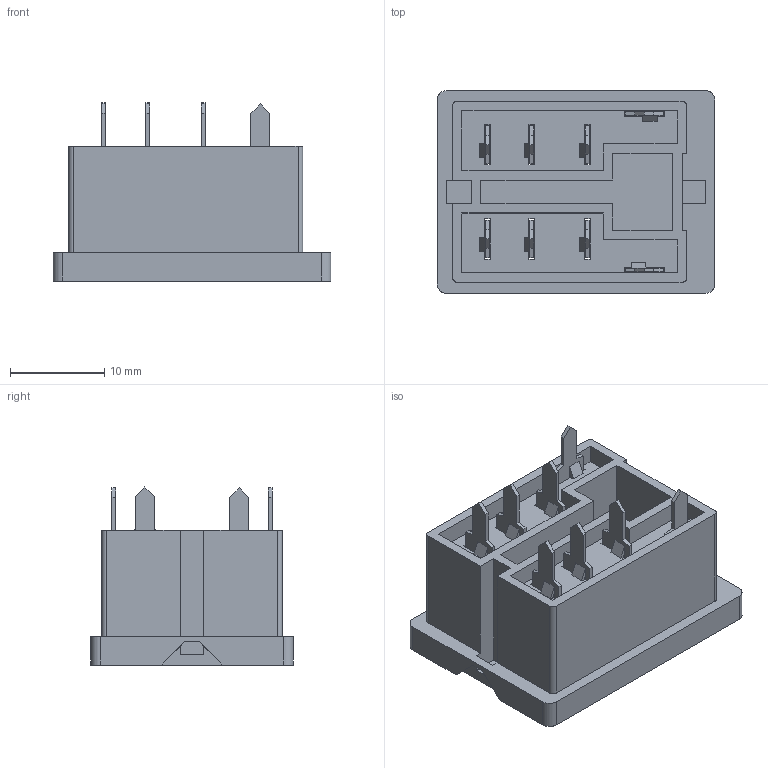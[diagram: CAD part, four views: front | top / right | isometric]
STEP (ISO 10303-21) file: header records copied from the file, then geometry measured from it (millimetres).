
FILE_DESCRIPTION(('STEP AP214'),'2;1');
FILE_NAME('96.12-catalogo.stp','2010-11-29T11:15:51',(''),(''),'2007.1.106','THINKDESIGN','');
FILE_SCHEMA(('AUTOMOTIVE_DESIGN'));
Length unit declared in the file: millimetre
Products named in the file (1): None
Bounding box: 29.5 x 21.5 x 18.9 mm (x, y, z)
Surface area: 6031.9 mm2 (no closed solid volume)
Topology: 0 solids, 0 shells, 597 faces, 3302 edges, 3302 vertices
Faces by surface type: plane 481, bspline 76, cylinder 40
Entity records: 32621 total; most frequent: CARTESIAN_POINT 8421, DIRECTION 4056, COMPOSITE_CURVE_SEGMENT 3302, TRIMMED_CURVE 2934, VECTOR 2854, LINE 2854, AXIS2_PLACEMENT_3D 601, OUTER_BOUNDARY_CURVE 597
